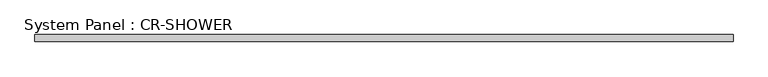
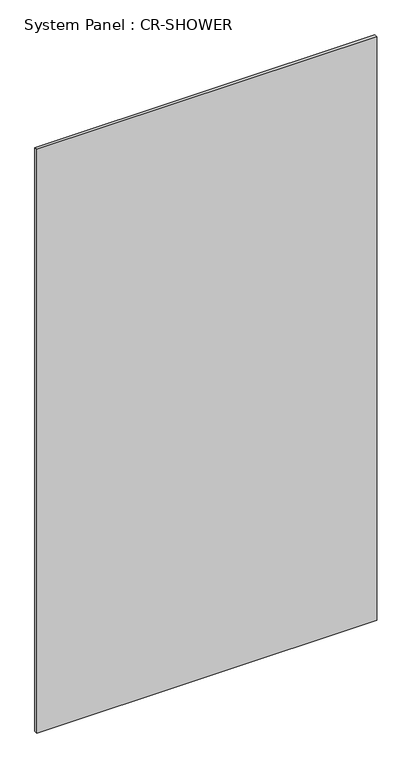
"""IFC4 building model written with IfcOpenShell, lengths in millimetres: plate geometry, System Panel : CR-SHOWER."""

from ifc_helpers import new_model, si_unit, origin, origin_with_axes, place, context, project, spatial, polyline, outline, extrude, source, transform, mapped, element, save


def system_panel_cr_shower_33531463(model_context):
    return source(origin(), model_context, "Body", "SweptSolid", [
        extrude(outline(polyline([(620.0000715, -12.45), (-620.0000715, -12.45), (-620.0000715, 0.05), (620.0000715, 0.05), (620.0000715, -12.45)])), origin_with_axes(), (0.0, 0.0, 1.0), 2250.0),
    ])


if __name__ == "__main__":
    model = new_model("IFC4")
    model_context = context("Model", 3, world=origin())
    ifc_project = project(units=[si_unit("LENGTHUNIT", "METRE", prefix="MILLI")], contexts=[model_context])
    site = spatial("IfcSite", under=ifc_project)
    building = spatial("IfcBuilding", under=site)
    placement = place(None, origin())
    system_panel_cr_shower_shape = system_panel_cr_shower_33531463(model_context)
    element("IfcPlate", 1, ObjectType="System Panel : CR-SHOWER", at=placement, inside=building, context=model_context, shape_type="MappedRepresentation", body=[
        mapped(system_panel_cr_shower_shape, transform((0.0, 0.0, 0.0), x_axis=(1.0, 0.0, 0.0), y_axis=(0.0, 1.0, 0.0), z_axis=(0.0, 0.0, 1.0))),
    ])
    save(model, "model.ifc")
